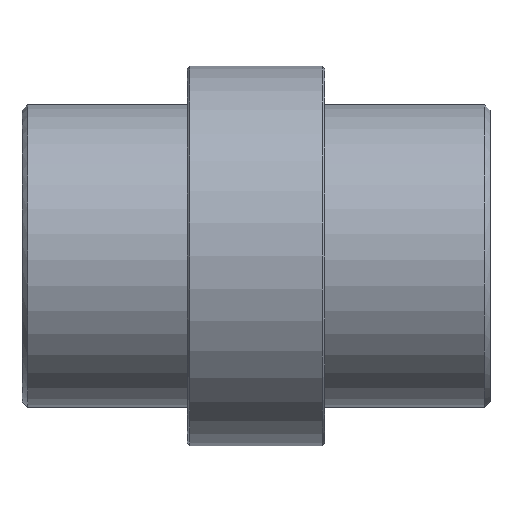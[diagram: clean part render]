
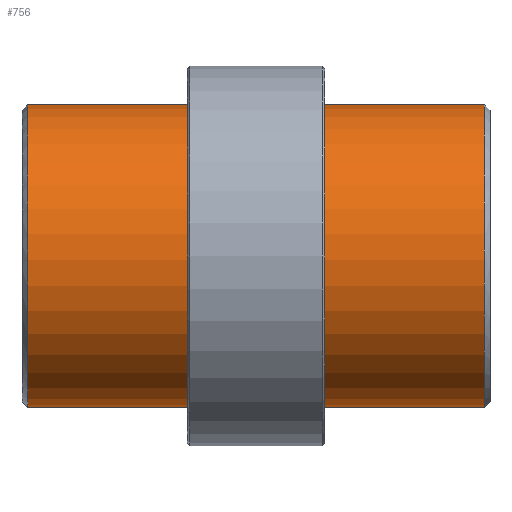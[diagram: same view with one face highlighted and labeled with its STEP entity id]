
A CAD part, front view. The second image highlights one B-rep face of the part: STEP entity #756.
In plain terms, the highlighted cylindrical face has radius 55 mm (diameter 110 mm), a full revolution.
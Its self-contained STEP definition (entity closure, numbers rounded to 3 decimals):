
#94=FACE_OUTER_BOUND('',#145,.T.);
#145=EDGE_LOOP('',(#618,#619,#620,#621,#622,#623,#624,#625,#626,#627,#628,
#629));
#180=CIRCLE('',#849,55.);
#181=CIRCLE('',#850,55.);
#183=CIRCLE('',#853,55.);
#184=CIRCLE('',#854,55.);
#207=B_SPLINE_CURVE_WITH_KNOTS('',3,(#3013,#3014,#3015,#3016,#3017,#3018,
#3019,#3020,#3021,#3022,#3023,#3024,#3025,#3026,#3027,#3028,#3029,#3030,
#3031,#3032,#3033,#3034,#3035,#3036,#3037,#3038),.UNSPECIFIED.,.F.,.F.,
(4,2,2,2,2,2,2,2,2,2,2,2,4),(-4.239,-3.974,-3.709,
-3.179,-2.649,-2.384,-2.12,-1.855,
-1.59,-1.06,-0.53,-0.265,
0.),.UNSPECIFIED.);
#208=B_SPLINE_CURVE_WITH_KNOTS('',3,(#3043,#3044,#3045,#3046,#3047,#3048,
#3049,#3050,#3051,#3052,#3053,#3054,#3055,#3056,#3057,#3058,#3059,#3060,
#3061,#3062,#3063,#3064,#3065,#3066,#3067,#3068),.UNSPECIFIED.,.F.,.F.,
(4,2,2,2,2,2,2,2,2,2,2,2,4),(-8.478,-8.213,-7.948,
-7.418,-6.888,-6.624,-6.359,
-6.094,-5.829,-5.299,-4.769,
-4.504,-4.239),.UNSPECIFIED.);
#235=LINE('',#3009,#280);
#236=LINE('',#3011,#281);
#237=LINE('',#3039,#282);
#238=LINE('',#3041,#283);
#239=LINE('',#3069,#284);
#280=VECTOR('',#1024,55.);
#281=VECTOR('',#1025,1000.);
#282=VECTOR('',#1026,1000.);
#283=VECTOR('',#1027,1000.);
#284=VECTOR('',#1028,1000.);
#348=VERTEX_POINT('',#2982);
#349=VERTEX_POINT('',#2986);
#350=VERTEX_POINT('',#2988);
#353=VERTEX_POINT('',#2997);
#354=VERTEX_POINT('',#3001);
#355=VERTEX_POINT('',#3003);
#356=VERTEX_POINT('',#3010);
#357=VERTEX_POINT('',#3012);
#358=VERTEX_POINT('',#3040);
#359=VERTEX_POINT('',#3042);
#439=EDGE_CURVE('',#349,#348,#180,.T.);
#440=EDGE_CURVE('',#350,#349,#181,.T.);
#444=EDGE_CURVE('',#354,#353,#183,.T.);
#445=EDGE_CURVE('',#355,#354,#184,.T.);
#447=EDGE_CURVE('',#349,#354,#235,.T.);
#448=EDGE_CURVE('',#353,#356,#236,.T.);
#449=EDGE_CURVE('',#356,#357,#207,.T.);
#450=EDGE_CURVE('',#357,#355,#237,.T.);
#451=EDGE_CURVE('',#348,#358,#238,.T.);
#452=EDGE_CURVE('',#358,#359,#208,.T.);
#453=EDGE_CURVE('',#359,#350,#239,.T.);
#618=ORIENTED_EDGE('',*,*,#440,.T.);
#619=ORIENTED_EDGE('',*,*,#447,.T.);
#620=ORIENTED_EDGE('',*,*,#444,.T.);
#621=ORIENTED_EDGE('',*,*,#448,.T.);
#622=ORIENTED_EDGE('',*,*,#449,.T.);
#623=ORIENTED_EDGE('',*,*,#450,.T.);
#624=ORIENTED_EDGE('',*,*,#445,.T.);
#625=ORIENTED_EDGE('',*,*,#447,.F.);
#626=ORIENTED_EDGE('',*,*,#439,.T.);
#627=ORIENTED_EDGE('',*,*,#451,.T.);
#628=ORIENTED_EDGE('',*,*,#452,.T.);
#629=ORIENTED_EDGE('',*,*,#453,.T.);
#689=CYLINDRICAL_SURFACE('',#855,55.);
#756=ADVANCED_FACE('',(#94),#689,.T.);
#849=AXIS2_PLACEMENT_3D('',#2987,#1010,#1011);
#850=AXIS2_PLACEMENT_3D('',#2989,#1012,#1013);
#853=AXIS2_PLACEMENT_3D('',#3002,#1018,#1019);
#854=AXIS2_PLACEMENT_3D('',#3004,#1020,#1021);
#855=AXIS2_PLACEMENT_3D('',#3008,#1022,#1023);
#1010=DIRECTION('center_axis',(1.,0.,0.));
#1011=DIRECTION('ref_axis',(0.,0.,-1.));
#1012=DIRECTION('center_axis',(1.,0.,0.));
#1013=DIRECTION('ref_axis',(0.,0.,-1.));
#1018=DIRECTION('center_axis',(-1.,0.,0.));
#1019=DIRECTION('ref_axis',(0.,0.,-1.));
#1020=DIRECTION('center_axis',(-1.,0.,0.));
#1021=DIRECTION('ref_axis',(0.,0.,-1.));
#1022=DIRECTION('center_axis',(-1.,0.,0.));
#1023=DIRECTION('ref_axis',(0.,0.,1.));
#1024=DIRECTION('',(1.,0.,0.));
#1025=DIRECTION('',(-1.,0.,0.));
#1026=DIRECTION('',(1.,0.,0.));
#1027=DIRECTION('',(1.,0.,0.));
#1028=DIRECTION('',(-1.,0.,0.));
#2982=CARTESIAN_POINT('',(-83.,53.188,-14.));
#2986=CARTESIAN_POINT('',(-83.,0.,-55.));
#2987=CARTESIAN_POINT('Origin',(-83.,0.,0.));
#2988=CARTESIAN_POINT('',(-83.,53.188,14.));
#2989=CARTESIAN_POINT('Origin',(-83.,0.,0.));
#2997=CARTESIAN_POINT('',(83.,53.188,14.));
#3001=CARTESIAN_POINT('',(83.,0.,-55.));
#3002=CARTESIAN_POINT('Origin',(83.,0.,0.));
#3003=CARTESIAN_POINT('',(83.,53.188,-14.));
#3004=CARTESIAN_POINT('Origin',(83.,0.,0.));
#3008=CARTESIAN_POINT('Origin',(85.,0.,0.));
#3009=CARTESIAN_POINT('',(85.,0.,-55.));
#3010=CARTESIAN_POINT('',(40.,53.188,14.));
#3011=CARTESIAN_POINT('',(85.,53.188,14.));
#3012=CARTESIAN_POINT('',(40.,53.188,-14.));
#3013=CARTESIAN_POINT('Ctrl Pts',(40.,53.188,14.));
#3014=CARTESIAN_POINT('Ctrl Pts',(39.117,53.188,14.));
#3015=CARTESIAN_POINT('Ctrl Pts',(38.205,53.211,13.915));
#3016=CARTESIAN_POINT('Ctrl Pts',(36.393,53.303,13.559));
#3017=CARTESIAN_POINT('Ctrl Pts',(35.493,53.372,13.288));
#3018=CARTESIAN_POINT('Ctrl Pts',(32.908,53.632,12.214));
#3019=CARTESIAN_POINT('Ctrl Pts',(31.339,53.875,11.138));
#3020=CARTESIAN_POINT('Ctrl Pts',(28.862,54.328,8.661));
#3021=CARTESIAN_POINT('Ctrl Pts',(27.786,54.568,7.092));
#3022=CARTESIAN_POINT('Ctrl Pts',(26.712,54.822,4.507));
#3023=CARTESIAN_POINT('Ctrl Pts',(26.441,54.889,3.607));
#3024=CARTESIAN_POINT('Ctrl Pts',(26.085,54.978,1.795));
#3025=CARTESIAN_POINT('Ctrl Pts',(26.,55.,0.883));
#3026=CARTESIAN_POINT('Ctrl Pts',(26.,55.,-0.883));
#3027=CARTESIAN_POINT('Ctrl Pts',(26.085,54.978,-1.795));
#3028=CARTESIAN_POINT('Ctrl Pts',(26.441,54.889,-3.607));
#3029=CARTESIAN_POINT('Ctrl Pts',(26.712,54.822,-4.507));
#3030=CARTESIAN_POINT('Ctrl Pts',(27.786,54.568,-7.092));
#3031=CARTESIAN_POINT('Ctrl Pts',(28.862,54.328,-8.661));
#3032=CARTESIAN_POINT('Ctrl Pts',(31.339,53.875,-11.138));
#3033=CARTESIAN_POINT('Ctrl Pts',(32.908,53.632,-12.214));
#3034=CARTESIAN_POINT('Ctrl Pts',(35.493,53.372,-13.288));
#3035=CARTESIAN_POINT('Ctrl Pts',(36.393,53.303,-13.559));
#3036=CARTESIAN_POINT('Ctrl Pts',(38.205,53.211,-13.915));
#3037=CARTESIAN_POINT('Ctrl Pts',(39.117,53.188,-14.));
#3038=CARTESIAN_POINT('Ctrl Pts',(40.,53.188,-14.));
#3039=CARTESIAN_POINT('',(85.,53.188,-14.));
#3040=CARTESIAN_POINT('',(-40.,53.188,-14.));
#3041=CARTESIAN_POINT('',(85.,53.188,-14.));
#3042=CARTESIAN_POINT('',(-40.,53.188,14.));
#3043=CARTESIAN_POINT('Ctrl Pts',(-40.,53.188,-14.));
#3044=CARTESIAN_POINT('Ctrl Pts',(-39.117,53.188,-14.));
#3045=CARTESIAN_POINT('Ctrl Pts',(-38.205,53.211,-13.915));
#3046=CARTESIAN_POINT('Ctrl Pts',(-36.393,53.303,-13.559));
#3047=CARTESIAN_POINT('Ctrl Pts',(-35.493,53.372,-13.288));
#3048=CARTESIAN_POINT('Ctrl Pts',(-32.908,53.632,-12.214));
#3049=CARTESIAN_POINT('Ctrl Pts',(-31.339,53.875,-11.138));
#3050=CARTESIAN_POINT('Ctrl Pts',(-28.862,54.328,-8.661));
#3051=CARTESIAN_POINT('Ctrl Pts',(-27.786,54.568,-7.092));
#3052=CARTESIAN_POINT('Ctrl Pts',(-26.712,54.822,-4.507));
#3053=CARTESIAN_POINT('Ctrl Pts',(-26.441,54.889,-3.607));
#3054=CARTESIAN_POINT('Ctrl Pts',(-26.085,54.978,-1.795));
#3055=CARTESIAN_POINT('Ctrl Pts',(-26.,55.,-0.883));
#3056=CARTESIAN_POINT('Ctrl Pts',(-26.,55.,0.883));
#3057=CARTESIAN_POINT('Ctrl Pts',(-26.085,54.978,1.795));
#3058=CARTESIAN_POINT('Ctrl Pts',(-26.441,54.889,3.607));
#3059=CARTESIAN_POINT('Ctrl Pts',(-26.712,54.822,4.507));
#3060=CARTESIAN_POINT('Ctrl Pts',(-27.786,54.568,7.092));
#3061=CARTESIAN_POINT('Ctrl Pts',(-28.862,54.328,8.661));
#3062=CARTESIAN_POINT('Ctrl Pts',(-31.339,53.875,11.138));
#3063=CARTESIAN_POINT('Ctrl Pts',(-32.908,53.632,12.214));
#3064=CARTESIAN_POINT('Ctrl Pts',(-35.493,53.372,13.288));
#3065=CARTESIAN_POINT('Ctrl Pts',(-36.393,53.303,13.559));
#3066=CARTESIAN_POINT('Ctrl Pts',(-38.205,53.211,13.915));
#3067=CARTESIAN_POINT('Ctrl Pts',(-39.117,53.188,14.));
#3068=CARTESIAN_POINT('Ctrl Pts',(-40.,53.188,14.));
#3069=CARTESIAN_POINT('',(85.,53.188,14.));
